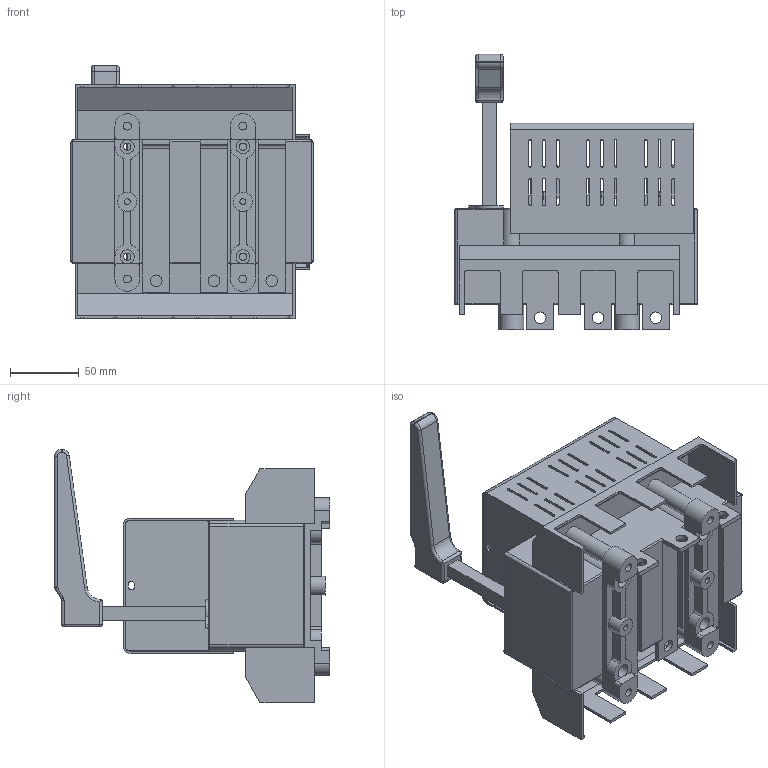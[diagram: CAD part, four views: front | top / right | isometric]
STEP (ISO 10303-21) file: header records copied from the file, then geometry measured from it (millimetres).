
FILE_DESCRIPTION(/* description */ (''),/* implementation_level */ '2;1');
FILE_NAME(/* name */ 'RAB 00 P3 A-R z oslona zaciskow.stp',/* time_stamp */ '2021-08-19T11:06:39+02:00',/* author */ (''),/* organization */ (''),/* preprocessor_version */ 'ST-DEVELOPER v18.1',/* originating_system */ 'SIEMENS PLM Software NX 1965',/* authorisation */ '');
FILE_SCHEMA (('AUTOMOTIVE_DESIGN { 1 0 10303 214 3 1 1 1 }'));
Length unit declared in the file: millimetre
Products named in the file (1): RAB 00 P3 A-R z oslona zaciskow
Bounding box: 176 x 200 x 183.9 mm (x, y, z)
Volume: 1329823.3 mm3; surface area: 296944.2 mm2
Topology: 1 solids, 1 shells, 1071 faces, 3070 edges, 2005 vertices
Faces by surface type: plane 658, cylinder 387, torus 12, bspline 8, sphere 6
Full cylindrical faces by diameter (mm): 2.7 x4, 4.3 x2, 5 x6, 5.2 x6, 5.3 x4, 5.8 x4, 8.5 x6, 10 x12, 13 x4, 14 x2
Entity records: 35161 total; most frequent: CARTESIAN_POINT 6582, ORIENTED_EDGE 5952, DIRECTION 5900, EDGE_CURVE 2976, LINE 2104, VECTOR 2104, VERTEX_POINT 1950, AXIS2_PLACEMENT_3D 1898
